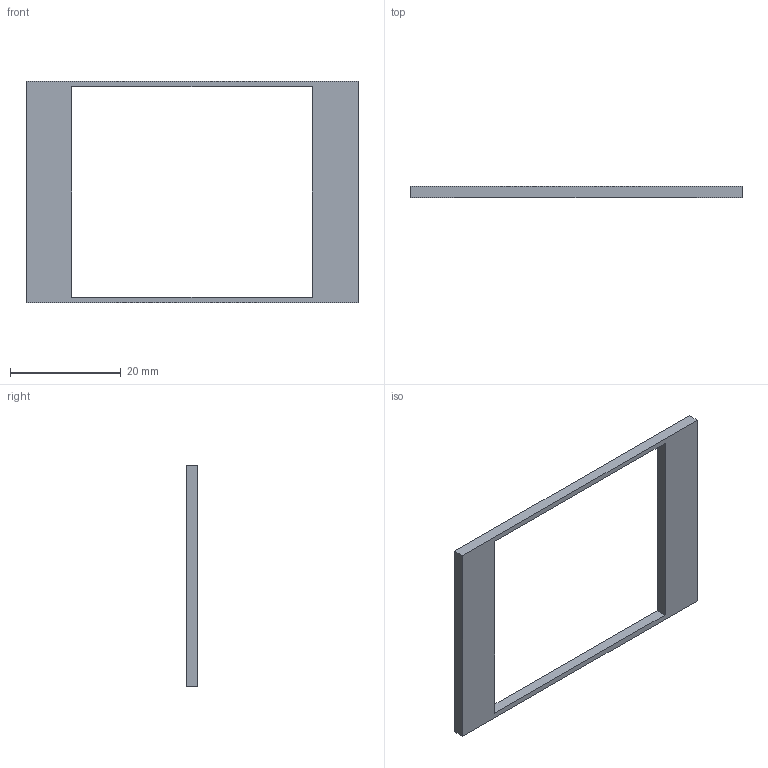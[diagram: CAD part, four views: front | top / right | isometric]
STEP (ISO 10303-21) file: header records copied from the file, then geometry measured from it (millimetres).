
FILE_DESCRIPTION(/* description */ ('STEP AP242 Edition 2','CAx-IF Rec.Pracs.---Representation and Presentation of Product Manufacturing Information (PMI)---4.0---2014-10-13','CAx-IF Rec.Pracs.---3D Tessellated Geometry---0.4---2014-09-14','2;1','CAx-IF Rec.Pracs.---User Defined Attributes---1.5---2016-08-15'),/* implementation_level */ '2;1');
FILE_NAME(/* name */ 'LCD_TFT_1.8_SPI_ST7735 - Part 2',/* time_stamp */ '2026-04-28T02:34:33Z',/* author */ (''),/* organization */ (''),/* preprocessor_version */ 'ST-DEVELOPER v20',/* originating_system */ 'ONSHAPE BY PTC INC, 1.214',/* authorisation */ ' ');
FILE_SCHEMA (('AP242_MANAGED_MODEL_BASED_3D_ENGINEERING_MIM_LF { 1 0 10303 442 3 1 4 }'));
Length unit declared in the file: metre
Products named in the file (1): Part 2
Bounding box: 60 x 2 x 40 mm (x, y, z)
Volume: 1494 mm3; surface area: 2220 mm2
Topology: 1 solids, 1 shells, 10 faces, 24 edges, 16 vertices
Faces by surface type: plane 10
Entity records: 314 total; most frequent: CARTESIAN_POINT 51, ORIENTED_EDGE 48, DIRECTION 46, EDGE_CURVE 24, LINE 24, VECTOR 24, VERTEX_POINT 16, EDGE_LOOP 12
